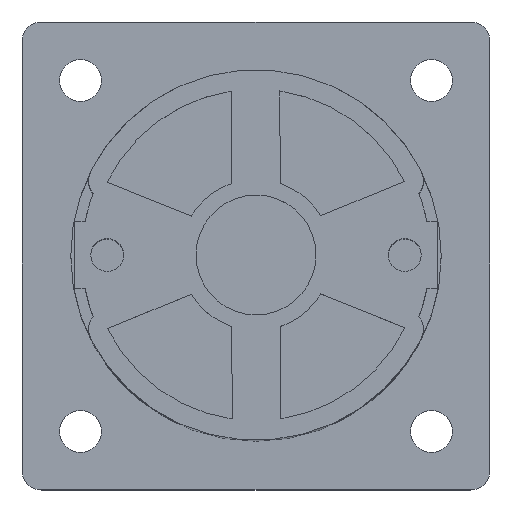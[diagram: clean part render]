
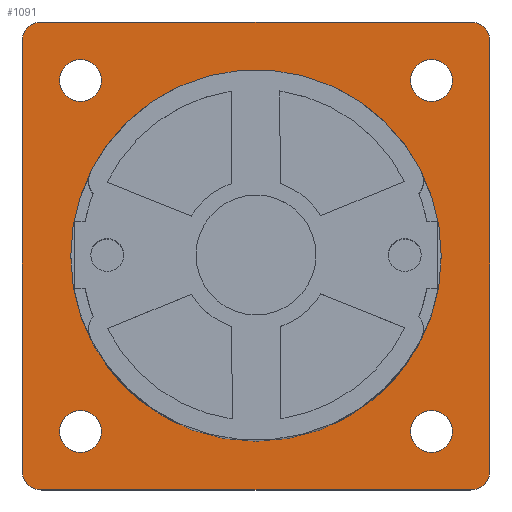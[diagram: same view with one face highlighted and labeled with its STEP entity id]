
A CAD part, top view. The second image highlights one B-rep face of the part: STEP entity #1091.
In plain terms, the highlighted planar face has unit normal (0, 0, 1).
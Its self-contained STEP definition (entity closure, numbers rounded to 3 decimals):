
#305=FACE_BOUND('',#2835,.T.);
#306=FACE_BOUND('',#2836,.T.);
#307=FACE_BOUND('',#2837,.T.);
#308=FACE_BOUND('',#2838,.T.);
#309=FACE_BOUND('',#2839,.T.);
#310=FACE_BOUND('',#2840,.T.);
#506=CIRCLE('',#11736,2.15);
#510=CIRCLE('',#11743,2.15);
#514=CIRCLE('',#11750,2.15);
#518=CIRCLE('',#11757,2.15);
#535=CIRCLE('',#11791,19.);
#580=CIRCLE('',#11886,2.);
#581=CIRCLE('',#11888,2.);
#582=CIRCLE('',#11890,2.);
#583=CIRCLE('',#11892,2.);
#1091=ADVANCED_FACE('',(#305,#306,#307,#308,#309,#310),#1690,.F.);
#1690=PLANE('',#11899);
#2835=EDGE_LOOP('',(#4102,#4103,#4104,#4105,#4106,#4107,#4108,#4109));
#2836=EDGE_LOOP('',(#4110));
#2837=EDGE_LOOP('',(#4111));
#2838=EDGE_LOOP('',(#4112));
#2839=EDGE_LOOP('',(#4113));
#2840=EDGE_LOOP('',(#4114));
#4102=ORIENTED_EDGE('',*,*,#8246,.F.);
#4103=ORIENTED_EDGE('',*,*,#8233,.F.);
#4104=ORIENTED_EDGE('',*,*,#8243,.F.);
#4105=ORIENTED_EDGE('',*,*,#8236,.F.);
#4106=ORIENTED_EDGE('',*,*,#8244,.F.);
#4107=ORIENTED_EDGE('',*,*,#8239,.F.);
#4108=ORIENTED_EDGE('',*,*,#8245,.F.);
#4109=ORIENTED_EDGE('',*,*,#8242,.F.);
#4110=ORIENTED_EDGE('',*,*,#8102,.F.);
#4111=ORIENTED_EDGE('',*,*,#8033,.T.);
#4112=ORIENTED_EDGE('',*,*,#8029,.T.);
#4113=ORIENTED_EDGE('',*,*,#8025,.T.);
#4114=ORIENTED_EDGE('',*,*,#8021,.T.);
#6860=VERTEX_POINT('',#16219);
#6864=VERTEX_POINT('',#16230);
#6868=VERTEX_POINT('',#16241);
#6872=VERTEX_POINT('',#16252);
#6937=VERTEX_POINT('',#16387);
#7026=VERTEX_POINT('',#16655);
#7027=VERTEX_POINT('',#16657);
#7028=VERTEX_POINT('',#16661);
#7029=VERTEX_POINT('',#16663);
#7030=VERTEX_POINT('',#16667);
#7031=VERTEX_POINT('',#16669);
#7032=VERTEX_POINT('',#16673);
#7033=VERTEX_POINT('',#16675);
#8021=EDGE_CURVE('',#6860,#6860,#506,.T.);
#8025=EDGE_CURVE('',#6864,#6864,#510,.T.);
#8029=EDGE_CURVE('',#6868,#6868,#514,.T.);
#8033=EDGE_CURVE('',#6872,#6872,#518,.T.);
#8102=EDGE_CURVE('',#6937,#6937,#535,.T.);
#8233=EDGE_CURVE('',#7027,#7026,#580,.T.);
#8236=EDGE_CURVE('',#7029,#7028,#581,.T.);
#8239=EDGE_CURVE('',#7031,#7030,#582,.T.);
#8242=EDGE_CURVE('',#7033,#7032,#583,.T.);
#8243=EDGE_CURVE('',#7028,#7027,#9732,.T.);
#8244=EDGE_CURVE('',#7030,#7029,#9733,.T.);
#8245=EDGE_CURVE('',#7032,#7031,#9734,.T.);
#8246=EDGE_CURVE('',#7026,#7033,#9735,.T.);
#9732=LINE('',#16678,#10801);
#9733=LINE('',#16680,#10802);
#9734=LINE('',#16682,#10803);
#9735=LINE('',#16684,#10804);
#10801=VECTOR('',#13476,1.);
#10802=VECTOR('',#13479,1.);
#10803=VECTOR('',#13482,1.);
#10804=VECTOR('',#13485,1.);
#11736=AXIS2_PLACEMENT_3D('',#16218,#13032,#13033);
#11743=AXIS2_PLACEMENT_3D('',#16229,#13046,#13047);
#11750=AXIS2_PLACEMENT_3D('',#16240,#13060,#13061);
#11757=AXIS2_PLACEMENT_3D('',#16251,#13074,#13075);
#11791=AXIS2_PLACEMENT_3D('',#16386,#13178,#13179);
#11886=AXIS2_PLACEMENT_3D('',#16658,#13454,#13455);
#11888=AXIS2_PLACEMENT_3D('',#16664,#13460,#13461);
#11890=AXIS2_PLACEMENT_3D('',#16670,#13466,#13467);
#11892=AXIS2_PLACEMENT_3D('',#16676,#13472,#13473);
#11899=AXIS2_PLACEMENT_3D('',#16687,#13490,#13491);
#13032=DIRECTION('',(0.,0.,-1.));
#13033=DIRECTION('',(-1.,0.,0.));
#13046=DIRECTION('',(0.,0.,-1.));
#13047=DIRECTION('',(-1.,0.,0.));
#13060=DIRECTION('',(0.,0.,-1.));
#13061=DIRECTION('',(-1.,0.,0.));
#13074=DIRECTION('',(0.,0.,-1.));
#13075=DIRECTION('',(-1.,0.,0.));
#13178=DIRECTION('',(0.,0.,1.));
#13179=DIRECTION('',(-1.,0.,0.));
#13454=DIRECTION('',(0.,0.,-1.));
#13455=DIRECTION('',(1.,0.,0.));
#13460=DIRECTION('',(0.,0.,-1.));
#13461=DIRECTION('',(1.,0.,0.));
#13466=DIRECTION('',(0.,0.,-1.));
#13467=DIRECTION('',(1.,0.,0.));
#13472=DIRECTION('',(0.,0.,-1.));
#13473=DIRECTION('',(1.,0.,0.));
#13476=DIRECTION('',(0.,-1.,0.));
#13479=DIRECTION('',(1.,0.,0.));
#13482=DIRECTION('',(0.,1.,0.));
#13485=DIRECTION('',(-1.,0.,0.));
#13490=DIRECTION('',(0.,0.,-1.));
#13491=DIRECTION('',(-1.,0.,0.));
#16218=CARTESIAN_POINT('',(18.,-18.,2.5));
#16219=CARTESIAN_POINT('',(15.85,-18.,2.5));
#16229=CARTESIAN_POINT('',(18.,18.,2.5));
#16230=CARTESIAN_POINT('',(15.85,18.,2.5));
#16240=CARTESIAN_POINT('',(-18.,18.,2.5));
#16241=CARTESIAN_POINT('',(-20.15,18.,2.5));
#16251=CARTESIAN_POINT('',(-18.,-18.,2.5));
#16252=CARTESIAN_POINT('',(-20.15,-18.,2.5));
#16386=CARTESIAN_POINT('',(0.,0.,2.5));
#16387=CARTESIAN_POINT('',(-19.,0.,2.5));
#16655=CARTESIAN_POINT('',(22.,-24.,2.5));
#16657=CARTESIAN_POINT('',(24.,-22.,2.5));
#16658=CARTESIAN_POINT('',(22.,-22.,2.5));
#16661=CARTESIAN_POINT('',(24.,22.,2.5));
#16663=CARTESIAN_POINT('',(22.,24.,2.5));
#16664=CARTESIAN_POINT('',(22.,22.,2.5));
#16667=CARTESIAN_POINT('',(-22.,24.,2.5));
#16669=CARTESIAN_POINT('',(-24.,22.,2.5));
#16670=CARTESIAN_POINT('',(-22.,22.,2.5));
#16673=CARTESIAN_POINT('',(-24.,-22.,2.5));
#16675=CARTESIAN_POINT('',(-22.,-24.,2.5));
#16676=CARTESIAN_POINT('',(-22.,-22.,2.5));
#16678=CARTESIAN_POINT('',(24.,22.,2.5));
#16680=CARTESIAN_POINT('',(-22.,24.,2.5));
#16682=CARTESIAN_POINT('',(-24.,-22.,2.5));
#16684=CARTESIAN_POINT('',(22.,-24.,2.5));
#16687=CARTESIAN_POINT('',(-22.,-22.,2.5));
